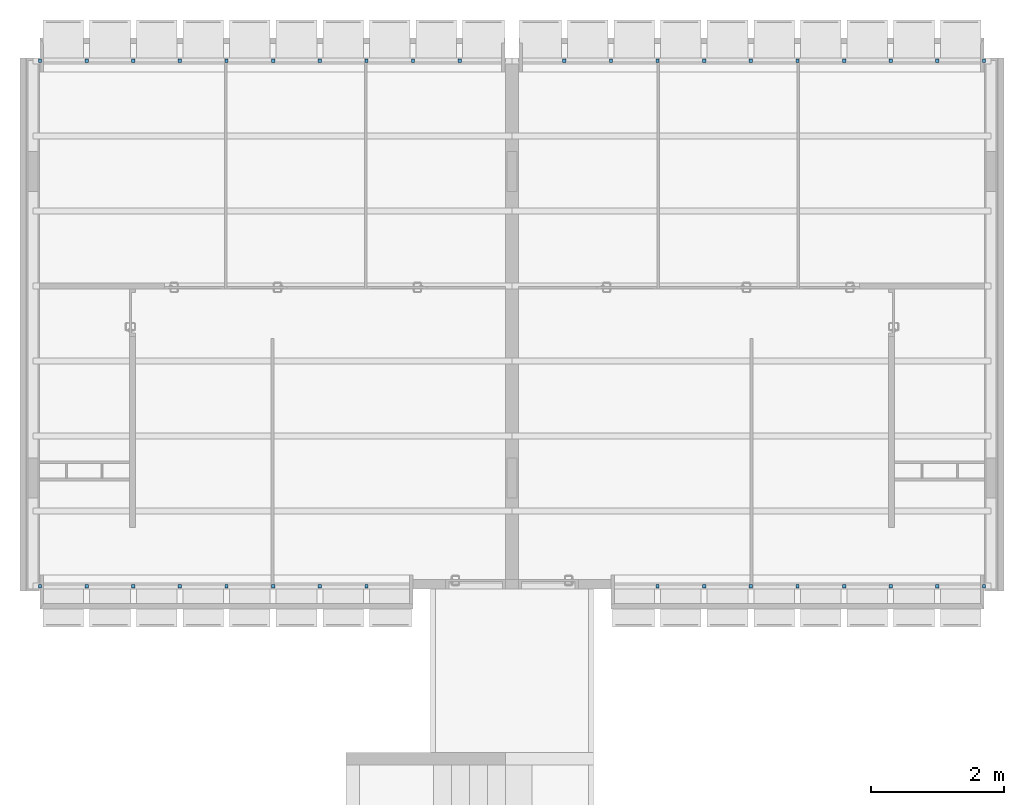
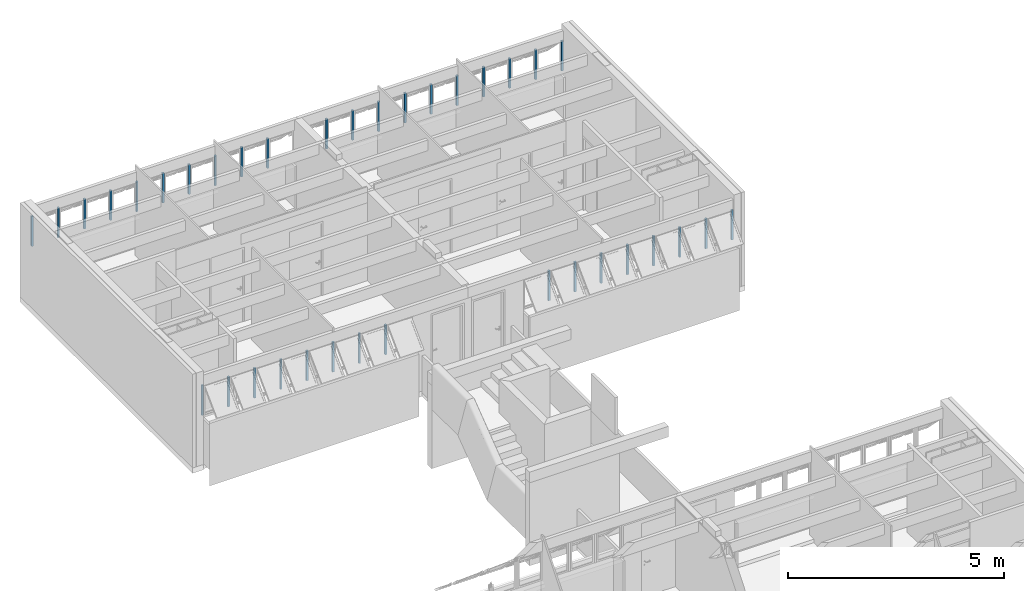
# One storey, part 3 of 41: 36 members, 4 elements without a shape of their own.
"""IFC4 building model written with IfcOpenShell, lengths in millimetres."""

import ifcopenshell
import ifcopenshell.guid

model = None  # the IFC model being written
_history = None  # IfcOwnerHistory: only IFC2X3 demands one
_inside = {}  # id of a spatial element -> (the spatial element, [elements in it])
_under = {}  # id of a project, library or spatial element -> (it, [spatial elements below it])
_declared = {}  # id of a project -> (the project, [libraries it declares])
_typed = {}  # id of a type object -> (the type object, [elements of that type])
_made_of = {}  # id of a material, layer set ... -> (it, [elements and type objects made of it])


def new_model(schema):
    """Start an empty IFC model of exactly this schema.

    Asked for "IFC4X3", IfcOpenShell would pick the latest addendum, in which some entities
    have other attributes; the version numbers below select the first issue.
    IFC2X3 requires an IfcOwnerHistory on every rooted entity: one is made here for all.
    """
    global model, _history
    if schema == "IFC4X3":
        model = ifcopenshell.file(schema_version=(4, 3, 0, 0))
    else:
        model = ifcopenshell.file(schema=schema)
    _inside.clear()
    _under.clear()
    _declared.clear()
    _typed.clear()
    _made_of.clear()
    _history = None
    if model.schema == "IFC2X3":
        org = make("IfcOrganization", Name="unknown")
        user = make(
            "IfcPersonAndOrganization",
            ThePerson=make("IfcPerson", FamilyName="unknown"),
            TheOrganization=org,
        )
        app = make(
            "IfcApplication",
            ApplicationDeveloper=org,
            Version="unknown",
            ApplicationFullName="unknown",
            ApplicationIdentifier="unknown",
        )
        _history = make(
            "IfcOwnerHistory",
            OwningUser=user,
            OwningApplication=app,
            ChangeAction="ADDED",
            CreationDate=0,
        )
    return model


def make(cls, **values):
    """One entity of the class cls with the attributes given. An attribute that is None is left unset."""
    return model.create_entity(
        cls, **{name: value for name, value in values.items() if value is not None}
    )


def entity(cls, *values):
    """Any entity or typed value of the class cls, its attributes in the order of the schema. None: left unset."""
    e = model.create_entity(cls)
    for i, value in enumerate(values):
        if value is not None:
            e[i] = value
    return e


def rooted(cls, **values):
    """An entity with a GlobalId (a new one), such as an element, a storey or a relation."""
    return make(cls, GlobalId=ifcopenshell.guid.new(), OwnerHistory=_history, **values)


def si_unit(unit_type, name, prefix=None):
    """IfcSIUnit, for example si_unit("LENGTHUNIT", "METRE", prefix="MILLI")."""
    return make("IfcSIUnit", UnitType=unit_type, Prefix=prefix, Name=name)


def converted_unit(unit_type, name, factor, base, dimensions=None, offset=None):
    """IfcConversionBasedUnit, such as the inch: factor (a typed value) times the base unit."""
    return make(
        "IfcConversionBasedUnit"
        if offset is None
        else "IfcConversionBasedUnitWithOffset",
        ConversionOffset=offset,
        Dimensions=None
        if dimensions is None
        else entity("IfcDimensionalExponents", *dimensions),
        UnitType=unit_type,
        Name=name,
        ConversionFactor=make(
            "IfcMeasureWithUnit", ValueComponent=factor, UnitComponent=base
        ),
    )


def derived_unit(unit_type, elements):
    """IfcDerivedUnit: a product of units, each with its exponent."""
    return make(
        "IfcDerivedUnit",
        Elements=[
            make("IfcDerivedUnitElement", Unit=unit, Exponent=power)
            for unit, power in elements
        ],
        UnitType=unit_type,
    )


def assignment(units):
    """IfcUnitAssignment: the units of a project."""
    return None if units is None else make("IfcUnitAssignment", Units=units)


def point(xyz):
    """IfcCartesianPoint."""
    return None if xyz is None else make("IfcCartesianPoint", Coordinates=xyz)


def direction(xyz):
    """IfcDirection."""
    return None if xyz is None else make("IfcDirection", DirectionRatios=xyz)


def frame(location, z_axis=None, x_axis=None):
    """IfcAxis2Placement3D, a coordinate frame: its origin and axes. An axis left out is left unset."""
    return make(
        "IfcAxis2Placement3D",
        Location=point(location),
        Axis=direction(z_axis),
        RefDirection=direction(x_axis),
    )


def origin_with_axes():
    """The frame at (0, 0, 0) with the z axis (0, 0, 1) and the x axis (1, 0, 0) written out."""
    return frame((0.0, 0.0, 0.0), z_axis=(0.0, 0.0, 1.0), x_axis=(1.0, 0.0, 0.0))


def place(relative_to, where):
    """IfcLocalPlacement: puts the frame where relative to a parent placement (None: the world)."""
    return make(
        "IfcLocalPlacement", PlacementRelTo=relative_to, RelativePlacement=where
    )


def context(
    kind, dimensions, precision=None, world=None, true_north=None, identifier=None
):
    """IfcGeometricRepresentationContext, for example the 3D "Model" context."""
    return make(
        "IfcGeometricRepresentationContext",
        ContextIdentifier=identifier,
        ContextType=kind,
        CoordinateSpaceDimension=dimensions,
        Precision=precision,
        WorldCoordinateSystem=world,
        TrueNorth=true_north,
    )


def subcontext(parent, identifier, kind, view, scale=None):
    """IfcGeometricRepresentationSubContext, for example "Body" below "Model"."""
    return make(
        "IfcGeometricRepresentationSubContext",
        ContextIdentifier=identifier,
        ContextType=kind,
        ParentContext=parent,
        TargetScale=scale,
        TargetView=view,
    )


def project(units=None, contexts=None):
    """IfcProject with its units and contexts."""
    return rooted(
        "IfcProject",
        Name="project",
        RepresentationContexts=contexts,
        UnitsInContext=assignment(units),
    )


def spatial(cls, under=None, at=None, **own):
    """A site, building, storey or space (cls), placed at a placement, below another one or the project."""
    s = rooted(cls, ObjectPlacement=at, **own)
    if under is not None:
        _under.setdefault(under.id(), (under, []))[1].append(s)
    return s


def point_list(points):
    """IfcCartesianPointList2D or 3D."""
    cls = (
        "IfcCartesianPointList2D" if len(points[0]) == 2 else "IfcCartesianPointList3D"
    )
    return make(cls, CoordList=points)


def line(*indices):
    """IfcLineIndex: a straight run through numbered points of an indexed curve."""
    return model.create_entity("IfcLineIndex", indices)


def indexed_curve(points, segments=None, self_intersect=None):
    """IfcIndexedPolyCurve: lines and arcs through numbered points (the first is 1)."""
    return make(
        "IfcIndexedPolyCurve",
        Points=point_list(points),
        Segments=segments,
        SelfIntersect=self_intersect,
    )


def outline(outer, holes=None, kind="AREA"):
    """IfcArbitraryClosedProfileDef: a profile drawn as a closed curve; with holes, ...WithVoids."""
    if holes is None:
        return make("IfcArbitraryClosedProfileDef", ProfileType=kind, OuterCurve=outer)
    return make(
        "IfcArbitraryProfileDefWithVoids",
        ProfileType=kind,
        OuterCurve=outer,
        InnerCurves=holes,
    )


def extrude(swept, where, along, depth):
    """IfcExtrudedAreaSolid: the profile swept, set in the frame where, extruded along a direction by depth."""
    return make(
        "IfcExtrudedAreaSolid",
        SweptArea=swept,
        Position=where,
        ExtrudedDirection=direction(along),
        Depth=depth,
    )


def shape(context_of_items, identifier, shape_type, items):
    """IfcShapeRepresentation: the items that make up one representation, for example the "Body"."""
    return make(
        "IfcShapeRepresentation",
        ContextOfItems=context_of_items,
        RepresentationIdentifier=identifier,
        RepresentationType=shape_type,
        Items=items,
    )


def material(Name=None, Category=None):
    """IfcMaterial."""
    return make("IfcMaterial", Name=Name, Category=Category)


def made_of(thing, what):
    """Note that an element or type object is made of a material, layer set ...; save() writes the relation."""
    if what is not None:
        _made_of.setdefault(what.id(), (what, []))[1].append(thing)
    return thing


def type_object(cls, material=None, **own):
    """A type object (cls), such as IfcWallType, which elements share."""
    return made_of(rooted(cls, **own), material)


def element(
    cls,
    number,
    at=None,
    inside=None,
    cuts=None,
    type_object=None,
    material=None,
    context=None,
    identifier="Body",
    shape_type=None,
    held_by="IfcProductDefinitionShape",
    body=None,
    shapes=None,
    **own,
):
    """One element of the class cls, such as IfcWall. Its Tag is "e" and its number.

    at: its placement. inside: the storey or other place that contains it. cuts: it is an
    opening in that element (IfcRelVoidsElement). A single representation is given by context,
    identifier, shape_type and body (its items); several are given by shapes. held_by: the class
    of the entity that holds the representations. save() writes the other relations.
    """
    e = rooted(cls, Tag="e%d" % number, ObjectPlacement=at, **own)
    if body is not None:
        shapes = [shape(context, identifier, shape_type, body)]
    if shapes is not None:
        e.Representation = make(held_by, Representations=shapes)
    if inside is not None:
        _inside.setdefault(inside.id(), (inside, []))[1].append(e)
    if cuts is not None:
        rooted(
            "IfcRelVoidsElement", RelatingBuildingElement=cuts, RelatedOpeningElement=e
        )
    if type_object is not None:
        _typed.setdefault(type_object.id(), (type_object, []))[1].append(e)
    return made_of(e, material)


def aggregate(whole, parts):
    """IfcRelAggregates: a whole, such as a stair, and the parts it consists of."""
    return rooted("IfcRelAggregates", RelatingObject=whole, RelatedObjects=parts)


def save(model, path):
    """Write the relations noted so far, then the file.

    IfcRelAggregates (storeys below a building ...), IfcRelContainedInSpatialStructure (elements
    in a storey), IfcRelDefinesByType, IfcRelAssociatesMaterial and IfcRelDeclares: one each for
    every whole, place, type object, material and project.
    """
    for whole, parts in _under.values():
        aggregate(whole, parts)
    for where, things in _inside.values():
        rooted(
            "IfcRelContainedInSpatialStructure",
            RelatedElements=things,
            RelatingStructure=where,
        )
    for kind, things in _typed.values():
        rooted("IfcRelDefinesByType", RelatedObjects=things, RelatingType=kind)
    for what, things in _made_of.values():
        rooted("IfcRelAssociatesMaterial", RelatedObjects=things, RelatingMaterial=what)
    for by, libraries in _declared.values():
        rooted("IfcRelDeclares", RelatingContext=by, RelatedDefinitions=libraries)
    model.write(path)


model = new_model("IFC4")

# Units and contexts
model_context = context("Model", 3, precision=0.01, world=origin_with_axes(), true_north=direction((0.0, 1.0)))
body_context = subcontext(model_context, "Body", "Model", "MODEL_VIEW")
ifc_project = project(units=[si_unit("LENGTHUNIT", "METRE", prefix="MILLI"), si_unit("AREAUNIT", "SQUARE_METRE"), si_unit("VOLUMEUNIT", "CUBIC_METRE"), converted_unit("PLANEANGLEUNIT", "DEGREE", entity("IfcPlaneAngleMeasure", 0.0174532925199), si_unit("PLANEANGLEUNIT", "RADIAN"), dimensions=[0, 0, 0, 0, 0, 0, 0]), converted_unit("TIMEUNIT", "Year", entity("IfcTimeMeasure", 31556926.0), si_unit("TIMEUNIT", "SECOND"), dimensions=[0, 0, 1, 0, 0, 0, 0]), si_unit("MASSUNIT", "GRAM", prefix="KILO"), si_unit("THERMODYNAMICTEMPERATUREUNIT", "DEGREE_CELSIUS"), si_unit("LUMINOUSINTENSITYUNIT", "LUMEN"), si_unit("ENERGYUNIT", "JOULE", prefix="MEGA"), derived_unit("THERMALCONDUCTANCEUNIT", [(si_unit("POWERUNIT", "WATT"), 1), (si_unit("LENGTHUNIT", "METRE"), -1), (si_unit("THERMODYNAMICTEMPERATUREUNIT", "KELVIN"), -1)]), derived_unit("SPECIFICHEATCAPACITYUNIT", [(si_unit("ENERGYUNIT", "JOULE"), 1), (si_unit("MASSUNIT", "GRAM", prefix="KILO"), -1), (si_unit("THERMODYNAMICTEMPERATUREUNIT", "KELVIN"), -1)]), derived_unit("MASSDENSITYUNIT", [(si_unit("MASSUNIT", "GRAM", prefix="KILO"), 1), (si_unit("VOLUMEUNIT", "CUBIC_METRE"), -1)])], contexts=[model_context])

# Site, building, storey
site_placement = place(None, origin_with_axes())
site = spatial("IfcSite", under=ifc_project, at=site_placement, Name="Local", CompositionType="ELEMENT")
building_placement = place(site_placement, origin_with_axes())
building = spatial("IfcBuilding", under=site, at=building_placement, Name="Construção", CompositionType="ELEMENT")
storey_placement = place(building_placement, frame((0.0, 0.0, 2650.0), z_axis=(0.0, 0.0, 1.0), x_axis=(1.0, 0.0, 0.0)))
storey = spatial("IfcBuildingStorey", under=building, at=storey_placement, Name="Segundo Pavimento", CompositionType="ELEMENT", Elevation=2650.0)

# Window, members
window_type = type_object("IfcWindowType", Name="Tipo de Parede Cortina", PartitioningType="NOTDEFINED", PredefinedType="NOTDEFINED")
window_1_placement = place(storey_placement, frame((2750.0, 17910.0, 1355.00007107), z_axis=(0.0, 0.0, 1.0), x_axis=(1.0, 0.0, 0.0)))
window_1 = element("IfcWindow", 1, at=window_1_placement, inside=storey, type_object=window_type, Name="APTO7-JANELA-000", PredefinedType="NOTDEFINED")
ifc_material = material(Name="Alumínio")
member_type = type_object("IfcMemberType", Name="Montante 50 x 50", PredefinedType="MULLION")
member_1_placement = place(window_1_placement, frame((1050.0, 0.0, 0.0), z_axis=(0.0, 0.0, 1.0), x_axis=(-1.0, 0.0, 0.0)))
member_1 = element("IfcMember", 2, at=member_1_placement, type_object=member_type, material=ifc_material, Name="APTO7-PC-Est-Mnt-430", PredefinedType="MULLION", context=body_context, shape_type="SweptSolid", body=[
    extrude(outline(indexed_curve([(-25.0, 50.0), (-25.0, 0.0), (25.0, 0.0), (25.0, 50.0)], segments=[line(1, 2, 3, 4, 1)])), frame((0.0, 0.0, 0.0), z_axis=(0.0, 0.0, 1.0), x_axis=(-1.0, 0.0, 0.0)), (0.0, 0.0, 1.0), 844.999891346),
])
member_2_placement = place(window_1_placement, frame((1750.0, 0.0, 0.0), z_axis=(0.0, 0.0, 1.0), x_axis=(-1.0, 0.0, 0.0)))
member_2 = element("IfcMember", 3, at=member_2_placement, type_object=member_type, material=ifc_material, Name="APTO7-PC-Est-Mnt-485", PredefinedType="MULLION", context=body_context, shape_type="SweptSolid", body=[
    extrude(outline(indexed_curve([(-25.0, 50.0), (-25.0, 0.0), (25.0, 0.0), (25.0, 50.0)], segments=[line(1, 2, 3, 4, 1)])), frame((0.0, 0.0, 0.0), z_axis=(0.0, 0.0, 1.0), x_axis=(-1.0, 0.0, 0.0)), (0.0, 0.0, 1.0), 844.999891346),
])
member_3_placement = place(window_1_placement, frame((2450.0, 0.0, 0.0), z_axis=(0.0, 0.0, 1.0), x_axis=(-1.0, 0.0, 0.0)))
member_3 = element("IfcMember", 4, at=member_3_placement, type_object=member_type, material=ifc_material, Name="APTO7-PC-Est-Mnt-486", PredefinedType="MULLION", context=body_context, shape_type="SweptSolid", body=[
    extrude(outline(indexed_curve([(-25.0, 50.0), (-25.0, 0.0), (25.0, 0.0), (25.0, 50.0)], segments=[line(1, 2, 3, 4, 1)])), frame((0.0, 0.0, 0.0), z_axis=(0.0, 0.0, 1.0), x_axis=(-1.0, 0.0, 0.0)), (0.0, 0.0, 1.0), 844.999891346),
])
member_4_placement = place(window_1_placement, frame((-350.0, 0.0, 0.0), z_axis=(0.0, 0.0, 1.0), x_axis=(-1.0, 0.0, 0.0)))
member_4 = element("IfcMember", 5, at=member_4_placement, type_object=member_type, material=ifc_material, Name="APTO7-PC-Est-Mnt-428", PredefinedType="MULLION", context=body_context, shape_type="SweptSolid", body=[
    extrude(outline(indexed_curve([(-25.0, 50.0), (-25.0, 0.0), (25.0, 0.0), (25.0, 50.0)], segments=[line(1, 2, 3, 4, 1)])), frame((0.0, 0.0, 0.0), z_axis=(0.0, 0.0, 1.0), x_axis=(-1.0, 0.0, 0.0)), (0.0, 0.0, 1.0), 844.999891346),
])
member_5_placement = place(window_1_placement, frame((-2450.0, 0.0, 0.0), z_axis=(0.0, 0.0, 1.0), x_axis=(-1.0, 0.0, 0.0)))
member_5 = element("IfcMember", 6, at=member_5_placement, type_object=member_type, material=ifc_material, Name="APTO7-PC-Est-Mnt-560", PredefinedType="MULLION", context=body_context, shape_type="SweptSolid", body=[
    extrude(outline(indexed_curve([(-25.0, 50.0), (-25.0, 0.0), (25.0, 0.0), (25.0, 50.0)], segments=[line(1, 2, 3, 4, 1)])), frame((0.0, 0.0, 0.0), z_axis=(0.0, 0.0, 1.0), x_axis=(-1.0, 0.0, 0.0)), (0.0, 0.0, 1.0), 844.999891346),
])
member_6_placement = place(window_1_placement, frame((350.0, 0.0, 0.0), z_axis=(0.0, 0.0, 1.0), x_axis=(-1.0, 0.0, 0.0)))
member_6 = element("IfcMember", 7, at=member_6_placement, type_object=member_type, material=ifc_material, Name="APTO7-PC-Est-Mnt-429", PredefinedType="MULLION", context=body_context, shape_type="SweptSolid", body=[
    extrude(outline(indexed_curve([(-25.0, 50.0), (-25.0, 0.0), (25.0, 0.0), (25.0, 50.0)], segments=[line(1, 2, 3, 4, 1)])), frame((0.0, 0.0, 0.0), z_axis=(0.0, 0.0, 1.0), x_axis=(-1.0, 0.0, 0.0)), (0.0, 0.0, 1.0), 844.999891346),
])
member_7_placement = place(window_1_placement, frame((-1050.0, 0.0, 0.0), z_axis=(0.0, 0.0, 1.0), x_axis=(-1.0, 0.0, 0.0)))
member_7 = element("IfcMember", 8, at=member_7_placement, type_object=member_type, material=ifc_material, Name="APTO7-PC-Est-Mnt-427", PredefinedType="MULLION", context=body_context, shape_type="SweptSolid", body=[
    extrude(outline(indexed_curve([(-25.0, 50.0), (-25.0, 0.0), (25.0, 0.0), (25.0, 50.0)], segments=[line(1, 2, 3, 4, 1)])), frame((0.0, 0.0, 0.0), z_axis=(0.0, 0.0, 1.0), x_axis=(-1.0, 0.0, 0.0)), (0.0, 0.0, 1.0), 844.999891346),
])
member_8_placement = place(window_1_placement, frame((-1750.0, 0.0, 0.0), z_axis=(0.0, 0.0, 1.0), x_axis=(-1.0, 0.0, 0.0)))
member_8 = element("IfcMember", 9, at=member_8_placement, type_object=member_type, material=ifc_material, Name="APTO7-PC-Est-Mnt-426", PredefinedType="MULLION", context=body_context, shape_type="SweptSolid", body=[
    extrude(outline(indexed_curve([(-25.0, 50.0), (-25.0, 0.0), (25.0, 0.0), (25.0, 50.0)], segments=[line(1, 2, 3, 4, 1)])), frame((0.0, 0.0, 0.0), z_axis=(0.0, 0.0, 1.0), x_axis=(-1.0, 0.0, 0.0)), (0.0, 0.0, 1.0), 844.999891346),
])
aggregate(window_1, [member_1, member_2, member_3, member_4, member_5, member_6, member_7, member_8])

window_2_placement = place(storey_placement, frame((6250.0, 25844.9790225, 1355.02054151), z_axis=(0.0, 0.0, 1.0), x_axis=(1.0, 0.0, 0.0)))
window_2 = element("IfcWindow", 10, at=window_2_placement, inside=storey, type_object=window_type, Name="APTO7-JANELA-001", PredefinedType="NOTDEFINED")
member_9_placement = place(window_2_placement, frame((-2450.0, 0.0, 0.0), z_axis=(0.0, 0.0, 1.0), x_axis=(-1.0, 0.0, 0.0)))
member_9 = element("IfcMember", 11, at=member_9_placement, type_object=member_type, material=ifc_material, Name="APTO7-PC-Est-Mnt-430", PredefinedType="MULLION", context=body_context, shape_type="SweptSolid", body=[
    extrude(outline(indexed_curve([(-25.0, -50.0), (25.0, -50.0), (25.0, 0.0), (-25.0, 0.0)], segments=[line(1, 2, 3, 4, 1)])), frame((0.0, 0.0, 0.0), z_axis=(0.0, 0.0, 1.0), x_axis=(-1.0, 0.0, 0.0)), (0.0, 0.0, 1.0), 844.999928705),
])
member_10_placement = place(window_2_placement, frame((-1750.0, 0.0, 0.0), z_axis=(0.0, 0.0, 1.0), x_axis=(-1.0, 0.0, 0.0)))
member_10 = element("IfcMember", 12, at=member_10_placement, type_object=member_type, material=ifc_material, Name="APTO7-PC-Est-Mnt-485", PredefinedType="MULLION", context=body_context, shape_type="SweptSolid", body=[
    extrude(outline(indexed_curve([(-25.0, -50.0), (25.0, -50.0), (25.0, 0.0), (-25.0, 0.0)], segments=[line(1, 2, 3, 4, 1)])), frame((0.0, 0.0, 0.0), z_axis=(0.0, 0.0, 1.0), x_axis=(-1.0, 0.0, 0.0)), (0.0, 0.0, 1.0), 844.999928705),
])
member_11_placement = place(window_2_placement, frame((-1050.0, 0.0, 0.0), z_axis=(0.0, 0.0, 1.0), x_axis=(-1.0, 0.0, 0.0)))
member_11 = element("IfcMember", 13, at=member_11_placement, type_object=member_type, material=ifc_material, Name="APTO7-PC-Est-Mnt-486", PredefinedType="MULLION", context=body_context, shape_type="SweptSolid", body=[
    extrude(outline(indexed_curve([(-25.0, -50.0), (25.0, -50.0), (25.0, 0.0), (-25.0, 0.0)], segments=[line(1, 2, 3, 4, 1)])), frame((0.0, 0.0, 0.0), z_axis=(0.0, 0.0, 1.0), x_axis=(-1.0, 0.0, 0.0)), (0.0, 0.0, 1.0), 844.999928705),
])
member_12_placement = place(window_2_placement, frame((-3850.0, 0.0, 0.0), z_axis=(0.0, 0.0, 1.0), x_axis=(-1.0, 0.0, 0.0)))
member_12 = element("IfcMember", 14, at=member_12_placement, type_object=member_type, material=ifc_material, Name="APTO7-PC-Est-Mnt-428", PredefinedType="MULLION", context=body_context, shape_type="SweptSolid", body=[
    extrude(outline(indexed_curve([(-25.0, -50.0), (25.0, -50.0), (25.0, 0.0), (-25.0, 0.0)], segments=[line(1, 2, 3, 4, 1)])), frame((0.0, 0.0, 0.0), z_axis=(0.0, 0.0, 1.0), x_axis=(-1.0, 0.0, 0.0)), (0.0, 0.0, 1.0), 844.999928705),
])
member_13_placement = place(window_2_placement, frame((-350.0, 0.0, 0.0), z_axis=(0.0, 0.0, 1.0), x_axis=(-1.0, 0.0, 0.0)))
member_13 = element("IfcMember", 15, at=member_13_placement, type_object=member_type, material=ifc_material, Name="APTO7-PC-Est-Mnt-487", PredefinedType="MULLION", context=body_context, shape_type="SweptSolid", body=[
    extrude(outline(indexed_curve([(-25.0, -50.0), (25.0, -50.0), (25.0, 0.0), (-25.0, 0.0)], segments=[line(1, 2, 3, 4, 1)])), frame((0.0, 0.0, 0.0), z_axis=(0.0, 0.0, 1.0), x_axis=(-1.0, 0.0, 0.0)), (0.0, 0.0, 1.0), 844.999928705),
])
member_14_placement = place(window_2_placement, frame((350.0, 0.0, 0.0), z_axis=(0.0, 0.0, 1.0), x_axis=(-1.0, 0.0, 0.0)))
member_14 = element("IfcMember", 16, at=member_14_placement, type_object=member_type, material=ifc_material, Name="APTO7-PC-Est-Mnt-488", PredefinedType="MULLION", context=body_context, shape_type="SweptSolid", body=[
    extrude(outline(indexed_curve([(-25.0, -50.0), (25.0, -50.0), (25.0, 0.0), (-25.0, 0.0)], segments=[line(1, 2, 3, 4, 1)])), frame((0.0, 0.0, 0.0), z_axis=(0.0, 0.0, 1.0), x_axis=(-1.0, 0.0, 0.0)), (0.0, 0.0, 1.0), 844.999928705),
])
member_15_placement = place(window_2_placement, frame((-5950.0, 0.0, 0.0), z_axis=(0.0, 0.0, 1.0), x_axis=(-1.0, 0.0, 0.0)))
member_15 = element("IfcMember", 17, at=member_15_placement, type_object=member_type, material=ifc_material, Name="APTO7-PC-Est-Mnt-522", PredefinedType="MULLION", context=body_context, shape_type="SweptSolid", body=[
    extrude(outline(indexed_curve([(-25.0, -50.0), (25.0, -50.0), (25.0, 0.0), (-25.0, 0.0)], segments=[line(1, 2, 3, 4, 1)])), frame((0.0, 0.0, 0.0), z_axis=(0.0, 0.0, 1.0), x_axis=(-1.0, 0.0, 0.0)), (0.0, 0.0, 1.0), 844.999928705),
])
member_16_placement = place(window_2_placement, frame((-3150.0, 0.0, 0.0), z_axis=(0.0, 0.0, 1.0), x_axis=(-1.0, 0.0, 0.0)))
member_16 = element("IfcMember", 18, at=member_16_placement, type_object=member_type, material=ifc_material, Name="APTO7-PC-Est-Mnt-429", PredefinedType="MULLION", context=body_context, shape_type="SweptSolid", body=[
    extrude(outline(indexed_curve([(-25.0, -50.0), (25.0, -50.0), (25.0, 0.0), (-25.0, 0.0)], segments=[line(1, 2, 3, 4, 1)])), frame((0.0, 0.0, 0.0), z_axis=(0.0, 0.0, 1.0), x_axis=(-1.0, 0.0, 0.0)), (0.0, 0.0, 1.0), 844.999928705),
])
member_17_placement = place(window_2_placement, frame((-4550.0, 0.0, 0.0), z_axis=(0.0, 0.0, 1.0), x_axis=(-1.0, 0.0, 0.0)))
member_17 = element("IfcMember", 19, at=member_17_placement, type_object=member_type, material=ifc_material, Name="APTO7-PC-Est-Mnt-427", PredefinedType="MULLION", context=body_context, shape_type="SweptSolid", body=[
    extrude(outline(indexed_curve([(-25.0, -50.0), (25.0, -50.0), (25.0, 0.0), (-25.0, 0.0)], segments=[line(1, 2, 3, 4, 1)])), frame((0.0, 0.0, 0.0), z_axis=(0.0, 0.0, 1.0), x_axis=(-1.0, 0.0, 0.0)), (0.0, 0.0, 1.0), 844.999928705),
])
member_18_placement = place(window_2_placement, frame((-5250.0, 0.0, 0.0), z_axis=(0.0, 0.0, 1.0), x_axis=(-1.0, 0.0, 0.0)))
member_18 = element("IfcMember", 20, at=member_18_placement, type_object=member_type, material=ifc_material, Name="APTO7-PC-Est-Mnt-426", PredefinedType="MULLION", context=body_context, shape_type="SweptSolid", body=[
    extrude(outline(indexed_curve([(-25.0, -50.0), (25.0, -50.0), (25.0, 0.0), (-25.0, 0.0)], segments=[line(1, 2, 3, 4, 1)])), frame((0.0, 0.0, 0.0), z_axis=(0.0, 0.0, 1.0), x_axis=(-1.0, 0.0, 0.0)), (0.0, 0.0, 1.0), 844.999928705),
])
aggregate(window_2, [member_9, member_10, member_11, member_12, member_13, member_14, member_15, member_16, member_17, member_18])

window_3_placement = place(storey_placement, frame((12020.0, 17910.0, 1355.00007107), z_axis=(0.0, 0.0, 1.0), x_axis=(1.0, 0.0, 0.0)))
window_3 = element("IfcWindow", 21, at=window_3_placement, inside=storey, type_object=window_type, Name="APTO8-JANELA-000", PredefinedType="NOTDEFINED")
member_19_placement = place(window_3_placement, frame((-1050.0, 0.0, 0.0), z_axis=(0.0, 0.0, 1.0), x_axis=(1.0, 0.0, 0.0)))
member_19 = element("IfcMember", 22, at=member_19_placement, type_object=member_type, material=ifc_material, Name="APTO8-PC-Est-Mnt-430", PredefinedType="MULLION", context=body_context, shape_type="SweptSolid", body=[
    extrude(outline(indexed_curve([(25.0, 50.0), (-25.0, 50.0), (-25.0, 0.0), (25.0, 0.0)], segments=[line(1, 2, 3, 4, 1)])), origin_with_axes(), (0.0, 0.0, 1.0), 844.999928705),
])
member_20_placement = place(window_3_placement, frame((-1750.0, 0.0, 0.0), z_axis=(0.0, 0.0, 1.0), x_axis=(1.0, 0.0, 0.0)))
member_20 = element("IfcMember", 23, at=member_20_placement, type_object=member_type, material=ifc_material, Name="APTO8-PC-Est-Mnt-485", PredefinedType="MULLION", context=body_context, shape_type="SweptSolid", body=[
    extrude(outline(indexed_curve([(25.0, 50.0), (-25.0, 50.0), (-25.0, 0.0), (25.0, 0.0)], segments=[line(1, 2, 3, 4, 1)])), origin_with_axes(), (0.0, 0.0, 1.0), 844.999928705),
])
member_21_placement = place(window_3_placement, frame((-2450.0, 0.0, 0.0), z_axis=(0.0, 0.0, 1.0), x_axis=(1.0, 0.0, 0.0)))
member_21 = element("IfcMember", 24, at=member_21_placement, type_object=member_type, material=ifc_material, Name="APTO8-PC-Est-Mnt-486", PredefinedType="MULLION", context=body_context, shape_type="SweptSolid", body=[
    extrude(outline(indexed_curve([(25.0, 50.0), (-25.0, 50.0), (-25.0, 0.0), (25.0, 0.0)], segments=[line(1, 2, 3, 4, 1)])), origin_with_axes(), (0.0, 0.0, 1.0), 844.999928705),
])
member_22_placement = place(window_3_placement, frame((350.0, 0.0, 0.0), z_axis=(0.0, 0.0, 1.0), x_axis=(1.0, 0.0, 0.0)))
member_22 = element("IfcMember", 25, at=member_22_placement, type_object=member_type, material=ifc_material, Name="APTO8-PC-Est-Mnt-428", PredefinedType="MULLION", context=body_context, shape_type="SweptSolid", body=[
    extrude(outline(indexed_curve([(25.0, 50.0), (-25.0, 50.0), (-25.0, 0.0), (25.0, 0.0)], segments=[line(1, 2, 3, 4, 1)])), origin_with_axes(), (0.0, 0.0, 1.0), 844.999928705),
])
member_23_placement = place(window_3_placement, frame((2450.0, 0.0, 0.0), z_axis=(0.0, 0.0, 1.0), x_axis=(1.0, 0.0, 0.0)))
member_23 = element("IfcMember", 26, at=member_23_placement, type_object=member_type, material=ifc_material, Name="APTO8-PC-Est-Mnt-560", PredefinedType="MULLION", context=body_context, shape_type="SweptSolid", body=[
    extrude(outline(indexed_curve([(25.0, 50.0), (-25.0, 50.0), (-25.0, 0.0), (25.0, 0.0)], segments=[line(1, 2, 3, 4, 1)])), origin_with_axes(), (0.0, 0.0, 1.0), 844.999928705),
])
member_24_placement = place(window_3_placement, frame((-350.0, 0.0, 0.0), z_axis=(0.0, 0.0, 1.0), x_axis=(1.0, 0.0, 0.0)))
member_24 = element("IfcMember", 27, at=member_24_placement, type_object=member_type, material=ifc_material, Name="APTO8-PC-Est-Mnt-429", PredefinedType="MULLION", context=body_context, shape_type="SweptSolid", body=[
    extrude(outline(indexed_curve([(25.0, 50.0), (-25.0, 50.0), (-25.0, 0.0), (25.0, 0.0)], segments=[line(1, 2, 3, 4, 1)])), origin_with_axes(), (0.0, 0.0, 1.0), 844.999928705),
])
member_25_placement = place(window_3_placement, frame((1050.0, 0.0, 0.0), z_axis=(0.0, 0.0, 1.0), x_axis=(1.0, 0.0, 0.0)))
member_25 = element("IfcMember", 28, at=member_25_placement, type_object=member_type, material=ifc_material, Name="APTO8-PC-Est-Mnt-427", PredefinedType="MULLION", context=body_context, shape_type="SweptSolid", body=[
    extrude(outline(indexed_curve([(25.0, 50.0), (-25.0, 50.0), (-25.0, 0.0), (25.0, 0.0)], segments=[line(1, 2, 3, 4, 1)])), origin_with_axes(), (0.0, 0.0, 1.0), 844.999928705),
])
member_26_placement = place(window_3_placement, frame((1750.0, 0.0, 0.0), z_axis=(0.0, 0.0, 1.0), x_axis=(1.0, 0.0, 0.0)))
member_26 = element("IfcMember", 29, at=member_26_placement, type_object=member_type, material=ifc_material, Name="APTO8-PC-Est-Mnt-426", PredefinedType="MULLION", context=body_context, shape_type="SweptSolid", body=[
    extrude(outline(indexed_curve([(25.0, 50.0), (-25.0, 50.0), (-25.0, 0.0), (25.0, 0.0)], segments=[line(1, 2, 3, 4, 1)])), origin_with_axes(), (0.0, 0.0, 1.0), 844.999928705),
])
aggregate(window_3, [member_19, member_20, member_21, member_22, member_23, member_24, member_25, member_26])

window_4_placement = place(storey_placement, frame((8520.0, 25844.9790225, 1355.02054151), z_axis=(0.0, 0.0, 1.0), x_axis=(1.0, 0.0, 0.0)))
window_4 = element("IfcWindow", 30, at=window_4_placement, inside=storey, type_object=window_type, Name="APTO8-JANELA-001", PredefinedType="NOTDEFINED")
member_27_placement = place(window_4_placement, frame((2450.0, 0.0, 0.0), z_axis=(0.0, 0.0, 1.0), x_axis=(1.0, 0.0, 0.0)))
member_27 = element("IfcMember", 31, at=member_27_placement, type_object=member_type, material=ifc_material, Name="APTO8-PC-Est-Mnt-430", PredefinedType="MULLION", context=body_context, shape_type="SweptSolid", body=[
    extrude(outline(indexed_curve([(25.0, -50.0), (25.0, 0.0), (-25.0, 0.0), (-25.0, -50.0)], segments=[line(1, 2, 3, 4, 1)])), origin_with_axes(), (0.0, 0.0, 1.0), 844.999891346),
])
member_28_placement = place(window_4_placement, frame((1750.0, 0.0, 0.0), z_axis=(0.0, 0.0, 1.0), x_axis=(1.0, 0.0, 0.0)))
member_28 = element("IfcMember", 32, at=member_28_placement, type_object=member_type, material=ifc_material, Name="APTO8-PC-Est-Mnt-485", PredefinedType="MULLION", context=body_context, shape_type="SweptSolid", body=[
    extrude(outline(indexed_curve([(25.0, -50.0), (25.0, 0.0), (-25.0, 0.0), (-25.0, -50.0)], segments=[line(1, 2, 3, 4, 1)])), origin_with_axes(), (0.0, 0.0, 1.0), 844.999891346),
])
member_29_placement = place(window_4_placement, frame((1050.0, 0.0, 0.0), z_axis=(0.0, 0.0, 1.0), x_axis=(1.0, 0.0, 0.0)))
member_29 = element("IfcMember", 33, at=member_29_placement, type_object=member_type, material=ifc_material, Name="APTO8-PC-Est-Mnt-486", PredefinedType="MULLION", context=body_context, shape_type="SweptSolid", body=[
    extrude(outline(indexed_curve([(25.0, -50.0), (25.0, 0.0), (-25.0, 0.0), (-25.0, -50.0)], segments=[line(1, 2, 3, 4, 1)])), origin_with_axes(), (0.0, 0.0, 1.0), 844.999891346),
])
member_30_placement = place(window_4_placement, frame((3850.0, 0.0, 0.0), z_axis=(0.0, 0.0, 1.0), x_axis=(1.0, 0.0, 0.0)))
member_30 = element("IfcMember", 34, at=member_30_placement, type_object=member_type, material=ifc_material, Name="APTO8-PC-Est-Mnt-428", PredefinedType="MULLION", context=body_context, shape_type="SweptSolid", body=[
    extrude(outline(indexed_curve([(25.0, -50.0), (25.0, 0.0), (-25.0, 0.0), (-25.0, -50.0)], segments=[line(1, 2, 3, 4, 1)])), origin_with_axes(), (0.0, 0.0, 1.0), 844.999891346),
])
member_31_placement = place(window_4_placement, frame((350.0, 0.0, 0.0), z_axis=(0.0, 0.0, 1.0), x_axis=(1.0, 0.0, 0.0)))
member_31 = element("IfcMember", 35, at=member_31_placement, type_object=member_type, material=ifc_material, Name="APTO8-PC-Est-Mnt-487", PredefinedType="MULLION", context=body_context, shape_type="SweptSolid", body=[
    extrude(outline(indexed_curve([(25.0, -50.0), (25.0, 0.0), (-25.0, 0.0), (-25.0, -50.0)], segments=[line(1, 2, 3, 4, 1)])), origin_with_axes(), (0.0, 0.0, 1.0), 844.999891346),
])
member_32_placement = place(window_4_placement, frame((-350.0, 0.0, 0.0), z_axis=(0.0, 0.0, 1.0), x_axis=(1.0, 0.0, 0.0)))
member_32 = element("IfcMember", 36, at=member_32_placement, type_object=member_type, material=ifc_material, Name="APTO8-PC-Est-Mnt-488", PredefinedType="MULLION", context=body_context, shape_type="SweptSolid", body=[
    extrude(outline(indexed_curve([(25.0, -50.0), (25.0, 0.0), (-25.0, 0.0), (-25.0, -50.0)], segments=[line(1, 2, 3, 4, 1)])), origin_with_axes(), (0.0, 0.0, 1.0), 844.999891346),
])
member_33_placement = place(window_4_placement, frame((5950.0, 0.0, 0.0), z_axis=(0.0, 0.0, 1.0), x_axis=(1.0, 0.0, 0.0)))
member_33 = element("IfcMember", 37, at=member_33_placement, type_object=member_type, material=ifc_material, Name="APTO8-PC-Est-Mnt-522", PredefinedType="MULLION", context=body_context, shape_type="SweptSolid", body=[
    extrude(outline(indexed_curve([(25.0, -50.0), (25.0, 0.0), (-25.0, 0.0), (-25.0, -50.0)], segments=[line(1, 2, 3, 4, 1)])), origin_with_axes(), (0.0, 0.0, 1.0), 844.999891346),
])
member_34_placement = place(window_4_placement, frame((3150.0, 0.0, 0.0), z_axis=(0.0, 0.0, 1.0), x_axis=(1.0, 0.0, 0.0)))
member_34 = element("IfcMember", 38, at=member_34_placement, type_object=member_type, material=ifc_material, Name="APTO8-PC-Est-Mnt-429", PredefinedType="MULLION", context=body_context, shape_type="SweptSolid", body=[
    extrude(outline(indexed_curve([(25.0, -50.0), (25.0, 0.0), (-25.0, 0.0), (-25.0, -50.0)], segments=[line(1, 2, 3, 4, 1)])), origin_with_axes(), (0.0, 0.0, 1.0), 844.999891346),
])
member_35_placement = place(window_4_placement, frame((4550.0, 0.0, 0.0), z_axis=(0.0, 0.0, 1.0), x_axis=(1.0, 0.0, 0.0)))
member_35 = element("IfcMember", 39, at=member_35_placement, type_object=member_type, material=ifc_material, Name="APTO8-PC-Est-Mnt-427", PredefinedType="MULLION", context=body_context, shape_type="SweptSolid", body=[
    extrude(outline(indexed_curve([(25.0, -50.0), (25.0, 0.0), (-25.0, 0.0), (-25.0, -50.0)], segments=[line(1, 2, 3, 4, 1)])), origin_with_axes(), (0.0, 0.0, 1.0), 844.999891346),
])
member_36_placement = place(window_4_placement, frame((5250.0, 0.0, 0.0), z_axis=(0.0, 0.0, 1.0), x_axis=(1.0, 0.0, 0.0)))
member_36 = element("IfcMember", 40, at=member_36_placement, type_object=member_type, material=ifc_material, Name="APTO8-PC-Est-Mnt-426", PredefinedType="MULLION", context=body_context, shape_type="SweptSolid", body=[
    extrude(outline(indexed_curve([(25.0, -50.0), (25.0, 0.0), (-25.0, 0.0), (-25.0, -50.0)], segments=[line(1, 2, 3, 4, 1)])), origin_with_axes(), (0.0, 0.0, 1.0), 844.999891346),
])
aggregate(window_4, [member_27, member_28, member_29, member_30, member_31, member_32, member_33, member_34, member_35, member_36])

save(model, "model.ifc")
